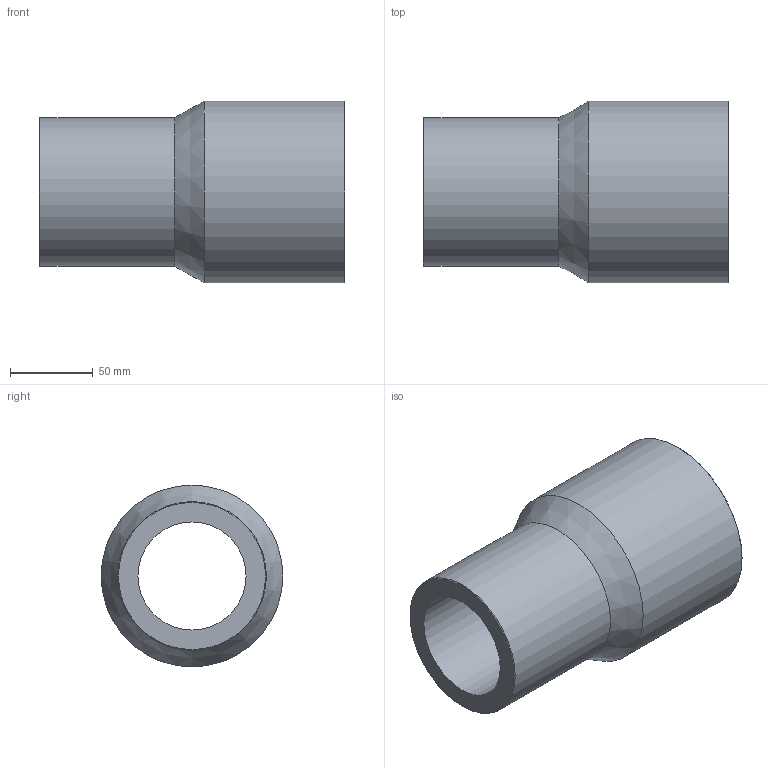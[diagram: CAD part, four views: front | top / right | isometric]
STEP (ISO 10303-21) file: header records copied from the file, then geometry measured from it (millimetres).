
FILE_DESCRIPTION(/* description */ ('Unknown'),/* implementation_level */ '2;1');
FILE_NAME(/* name */ 'RP110090H',/* time_stamp */ '2024-01-10T12:12:51+01:00',/* author */ ('Unknown'),/* organization */ ('Unknown'),/* preprocessor_version */ 'ST-DEVELOPER v18.102',/* originating_system */ 'Solid Edge',/* authorisation */ 'Unknown');
FILE_SCHEMA (('AUTOMOTIVE_DESIGN {1 0 10303 214 3 1 1}'));
Length unit declared in the file: millimetre
Products named in the file (1): RP110090H
Bounding box: 185 x 110 x 110 mm (x, y, z)
Volume: 702435.5 mm3; surface area: 108745.3 mm2
Topology: 1 solids, 1 shells, 10 faces, 19 edges, 11 vertices
Faces by surface type: cylinder 4, cone 4, plane 2
Full cylindrical faces by diameter (mm): 65.4 x1, 79.8 x1, 90 x1, 110 x1
Entity records: 238 total; most frequent: DIRECTION 42, CARTESIAN_POINT 31, AXIS2_PLACEMENT_3D 21, ORIENTED_EDGE 20, EDGE_LOOP 20, FACE_BOUND 20, EDGE_CURVE 10, VERTEX_POINT 10
